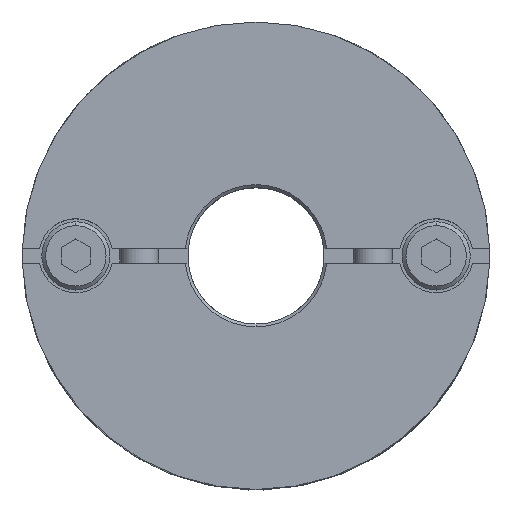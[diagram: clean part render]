
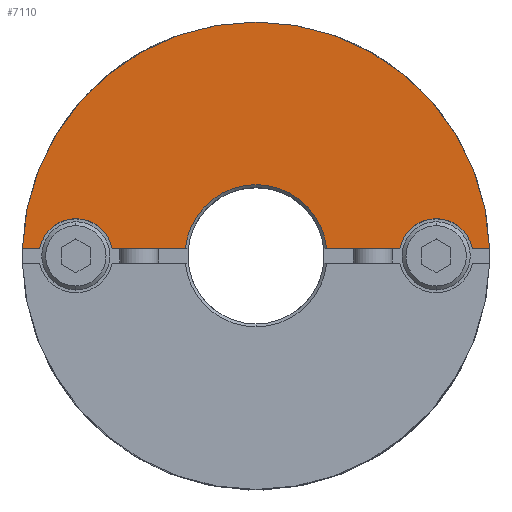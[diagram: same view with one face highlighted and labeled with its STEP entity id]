
A CAD part, top view. The second image highlights one B-rep face of the part: STEP entity #7110.
In plain terms, the highlighted planar face has unit normal (0, 0, 1).
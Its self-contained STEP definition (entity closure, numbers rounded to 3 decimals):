
#553=CARTESIAN_POINT('',(0.,7.3,19.3));
#554=VERTEX_POINT('',#553);
#563=CARTESIAN_POINT('',(-7.261,0.75,19.3));
#564=VERTEX_POINT('',#563);
#565=CARTESIAN_POINT('',(0.,0.,19.3));
#566=DIRECTION('',(0.0,0.0,1.0));
#567=DIRECTION('',(0.0,-1.0,0.0));
#568=AXIS2_PLACEMENT_3D('',#565,#566,#567);
#569=CIRCLE('',#568,7.3);
#570=EDGE_CURVE('',#554,#564,#569,.T.);
#742=CARTESIAN_POINT('',(0.,24.,19.3));
#743=VERTEX_POINT('',#742);
#827=CARTESIAN_POINT('',(-23.988,0.75,19.3));
#828=VERTEX_POINT('',#827);
#835=CARTESIAN_POINT('',(0.,0.,19.3));
#836=DIRECTION('',(0.0,0.0,-1.0));
#837=DIRECTION('',(0.0,1.0,0.0));
#838=AXIS2_PLACEMENT_3D('',#835,#836,#837);
#839=CIRCLE('',#838,24.0);
#840=EDGE_CURVE('',#828,#743,#839,.T.);
#1041=CARTESIAN_POINT('',(-18.5,3.8,19.3));
#1042=VERTEX_POINT('',#1041);
#1051=CARTESIAN_POINT('',(-22.225,0.75,19.3));
#1052=VERTEX_POINT('',#1051);
#1053=CARTESIAN_POINT('',(-18.5,0.,19.3));
#1054=DIRECTION('',(0.0,0.0,-1.0));
#1055=DIRECTION('',(0.0,1.0,0.0));
#1056=AXIS2_PLACEMENT_3D('',#1053,#1054,#1055);
#1057=CIRCLE('',#1056,3.8);
#1058=EDGE_CURVE('',#1052,#1042,#1057,.T.);
#1125=CARTESIAN_POINT('',(18.5,3.8,19.3));
#1126=VERTEX_POINT('',#1125);
#1135=CARTESIAN_POINT('',(14.775,0.75,19.3));
#1136=VERTEX_POINT('',#1135);
#1137=CARTESIAN_POINT('',(18.5,0.,19.3));
#1138=DIRECTION('',(0.0,0.0,-1.0));
#1139=DIRECTION('',(0.0,1.0,0.0));
#1140=AXIS2_PLACEMENT_3D('',#1137,#1138,#1139);
#1141=CIRCLE('',#1140,3.8);
#1142=EDGE_CURVE('',#1136,#1126,#1141,.T.);
#6786=CARTESIAN_POINT('',(22.225,0.75,19.3));
#6787=VERTEX_POINT('',#6786);
#6794=CARTESIAN_POINT('',(18.5,0.,19.3));
#6795=DIRECTION('',(0.0,0.0,-1.0));
#6796=DIRECTION('',(0.0,1.0,0.0));
#6797=AXIS2_PLACEMENT_3D('',#6794,#6795,#6796);
#6798=CIRCLE('',#6797,3.8);
#6799=EDGE_CURVE('',#1126,#6787,#6798,.T.);
#6852=CARTESIAN_POINT('',(-14.775,0.75,19.3));
#6853=VERTEX_POINT('',#6852);
#6860=CARTESIAN_POINT('',(-18.5,0.,19.3));
#6861=DIRECTION('',(0.0,0.0,-1.0));
#6862=DIRECTION('',(0.0,1.0,0.0));
#6863=AXIS2_PLACEMENT_3D('',#6860,#6861,#6862);
#6864=CIRCLE('',#6863,3.8);
#6865=EDGE_CURVE('',#1042,#6853,#6864,.T.);
#6884=CARTESIAN_POINT('',(23.988,0.75,19.3));
#6885=VERTEX_POINT('',#6884);
#6892=CARTESIAN_POINT('',(22.225,0.75,19.3));
#6893=DIRECTION('',(1.0,0.0,0.0));
#6894=VECTOR('',#6893,1.763);
#6895=LINE('',#6892,#6894);
#6896=EDGE_CURVE('',#6787,#6885,#6895,.T.);
#6907=CARTESIAN_POINT('',(7.261,0.75,19.3));
#6908=VERTEX_POINT('',#6907);
#6909=CARTESIAN_POINT('',(7.261,0.75,19.3));
#6910=DIRECTION('',(1.0,0.0,0.0));
#6911=VECTOR('',#6910,7.513);
#6912=LINE('',#6909,#6911);
#6913=EDGE_CURVE('',#6908,#1136,#6912,.T.);
#7069=CARTESIAN_POINT('',(0.,2.182,19.3));
#7070=DIRECTION('',(0.0,0.0,1.0));
#7071=DIRECTION('',(0.0,1.0,0.0));
#7072=AXIS2_PLACEMENT_3D('',#7069,#7070,#7071);
#7073=PLANE('',#7072);
#7074=ORIENTED_EDGE('',*,*,#1142,.T.);
#7075=ORIENTED_EDGE('',*,*,#6799,.T.);
#7076=ORIENTED_EDGE('',*,*,#6896,.T.);
#7077=CARTESIAN_POINT('',(0.,0.,19.3));
#7078=DIRECTION('',(0.0,0.0,-1.0));
#7079=DIRECTION('',(0.0,1.0,0.0));
#7080=AXIS2_PLACEMENT_3D('',#7077,#7078,#7079);
#7081=CIRCLE('',#7080,24.0);
#7082=EDGE_CURVE('',#743,#6885,#7081,.T.);
#7083=ORIENTED_EDGE('',*,*,#7082,.F.);
#7084=ORIENTED_EDGE('',*,*,#840,.F.);
#7085=CARTESIAN_POINT('',(-23.988,0.75,19.3));
#7086=DIRECTION('',(1.0,0.0,0.0));
#7087=VECTOR('',#7086,1.763);
#7088=LINE('',#7085,#7087);
#7089=EDGE_CURVE('',#828,#1052,#7088,.T.);
#7090=ORIENTED_EDGE('',*,*,#7089,.T.);
#7091=ORIENTED_EDGE('',*,*,#1058,.T.);
#7092=ORIENTED_EDGE('',*,*,#6865,.T.);
#7093=CARTESIAN_POINT('',(-14.775,0.75,19.3));
#7094=DIRECTION('',(1.0,0.0,0.0));
#7095=VECTOR('',#7094,7.513);
#7096=LINE('',#7093,#7095);
#7097=EDGE_CURVE('',#6853,#564,#7096,.T.);
#7098=ORIENTED_EDGE('',*,*,#7097,.T.);
#7099=ORIENTED_EDGE('',*,*,#570,.F.);
#7100=CARTESIAN_POINT('',(0.,0.,19.3));
#7101=DIRECTION('',(0.0,0.0,1.0));
#7102=DIRECTION('',(0.0,-1.0,0.0));
#7103=AXIS2_PLACEMENT_3D('',#7100,#7101,#7102);
#7104=CIRCLE('',#7103,7.3);
#7105=EDGE_CURVE('',#6908,#554,#7104,.T.);
#7106=ORIENTED_EDGE('',*,*,#7105,.F.);
#7107=ORIENTED_EDGE('',*,*,#6913,.T.);
#7108=EDGE_LOOP('',(#7074,#7075,#7076,#7083,#7084,#7090,#7091,#7092,#7098,#7099,#7106,#7107));
#7109=FACE_OUTER_BOUND('',#7108,.T.);
#7110=ADVANCED_FACE('',(#7109),#7073,.T.);
